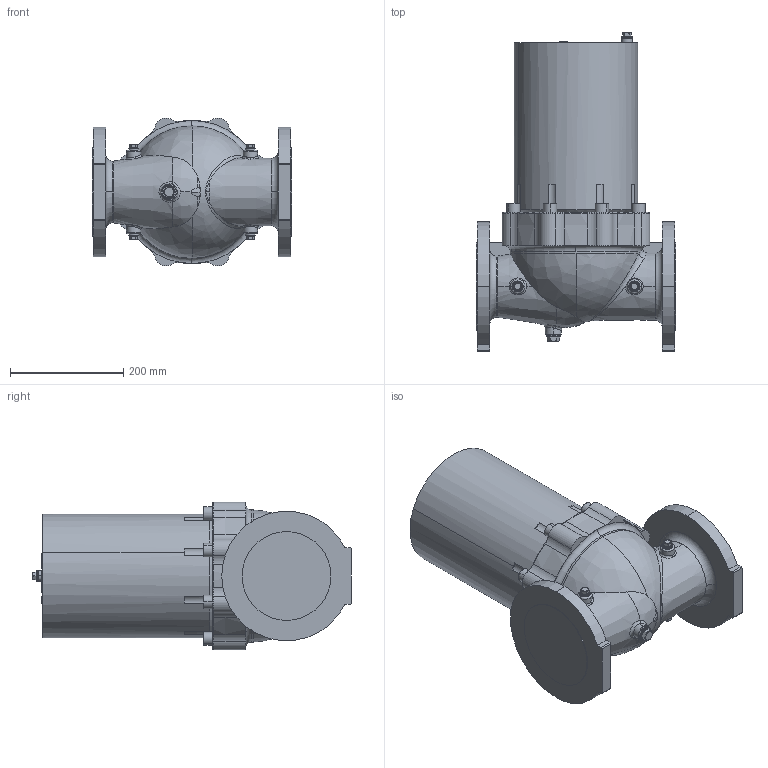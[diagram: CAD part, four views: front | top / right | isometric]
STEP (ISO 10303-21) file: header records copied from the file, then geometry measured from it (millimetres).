
FILE_DESCRIPTION((''),'2;1');
FILE_NAME('62_F1_42_F1_R5_BF_SW0001','2019-05-02T',('jjunior'),(''),'PRO/ENGINEER BY PARAMETRIC TECHNOLOGY CORPORATION, 2010160','PRO/ENGINEER BY PARAMETRIC TECHNOLOGY CORPORATION, 2010160','');
FILE_SCHEMA(('CONFIG_CONTROL_DESIGN'));
Length unit declared in the file: millimetre
Products named in the file (1): 62_F1_42_F1_R5_BF_SW0001
Bounding box: 353 x 563.1 x 261.25 mm (x, y, z)
Volume: 21944171.6 mm3; surface area: 642274.8 mm2
Topology: 1 solids, 1 shells, 534 faces, 1471 edges, 969 vertices
Faces by surface type: plane 296, cylinder 110, torus 96, bspline 22, cone 10
Entity records: 22304 total; most frequent: CARTESIAN_POINT 8589, ORIENTED_EDGE 2938, DIRECTION 2824, EDGE_CURVE 1469, AXIS2_PLACEMENT_3D 1017, VERTEX_POINT 969, VECTOR 790, LINE 790
